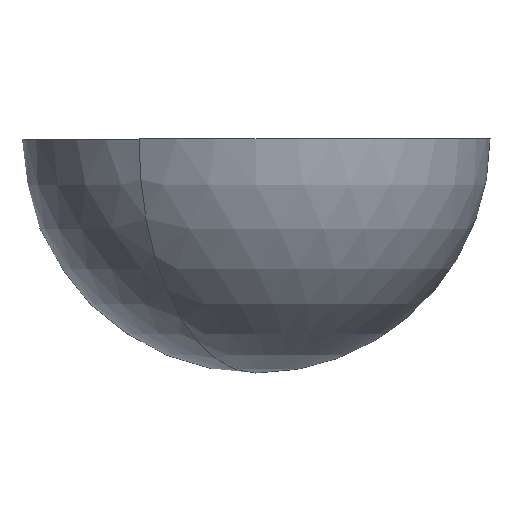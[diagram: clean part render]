
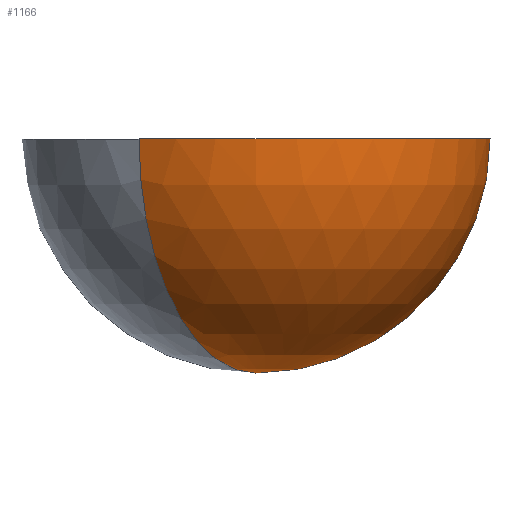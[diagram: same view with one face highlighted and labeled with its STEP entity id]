
A CAD part, left-side view. The second image highlights one B-rep face of the part: STEP entity #1166.
In plain terms, the highlighted spherical face has radius 165 mm.
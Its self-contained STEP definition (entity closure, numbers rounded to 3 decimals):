
#85=SPHERICAL_SURFACE('',#1314,165.);
#125=FACE_OUTER_BOUND('',#200,.T.);
#200=EDGE_LOOP('',(#862,#863,#864));
#301=CIRCLE('',#1315,165.);
#302=CIRCLE('',#1316,165.);
#303=CIRCLE('',#1317,165.);
#529=VERTEX_POINT('',#2020);
#530=VERTEX_POINT('',#2021);
#531=VERTEX_POINT('',#2023);
#659=EDGE_CURVE('',#529,#530,#301,.T.);
#660=EDGE_CURVE('',#531,#530,#302,.T.);
#661=EDGE_CURVE('',#529,#531,#303,.T.);
#862=ORIENTED_EDGE('',*,*,#659,.T.);
#863=ORIENTED_EDGE('',*,*,#660,.F.);
#864=ORIENTED_EDGE('',*,*,#661,.F.);
#1166=ADVANCED_FACE('',(#125),#85,.T.);
#1314=AXIS2_PLACEMENT_3D('',#2019,#1581,#1582);
#1315=AXIS2_PLACEMENT_3D('',#2022,#1583,#1584);
#1316=AXIS2_PLACEMENT_3D('',#2024,#1585,#1586);
#1317=AXIS2_PLACEMENT_3D('',#2025,#1587,#1588);
#1581=DIRECTION('center_axis',(0.,0.,1.));
#1582=DIRECTION('ref_axis',(1.,0.,0.));
#1583=DIRECTION('center_axis',(1.,0.,0.));
#1584=DIRECTION('ref_axis',(0.,-1.,0.));
#1585=DIRECTION('center_axis',(-0.5,0.866,0.));
#1586=DIRECTION('ref_axis',(0.866,0.5,0.));
#1587=DIRECTION('center_axis',(0.,0.,1.));
#1588=DIRECTION('ref_axis',(0.,-1.,0.));
#2019=CARTESIAN_POINT('Origin',(0.,0.,0.));
#2020=CARTESIAN_POINT('',(0.,-165.,0.));
#2021=CARTESIAN_POINT('',(0.,0.,-165.));
#2022=CARTESIAN_POINT('Origin',(0.,0.,0.));
#2023=CARTESIAN_POINT('',(142.894,82.5,0.));
#2024=CARTESIAN_POINT('Origin',(0.,0.,0.));
#2025=CARTESIAN_POINT('Origin',(0.,0.,
0.));
